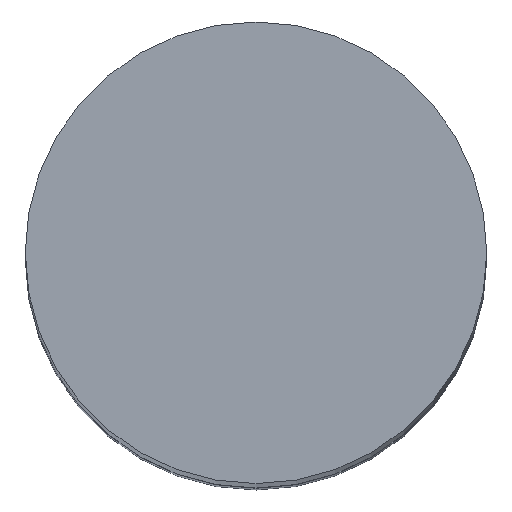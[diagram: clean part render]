
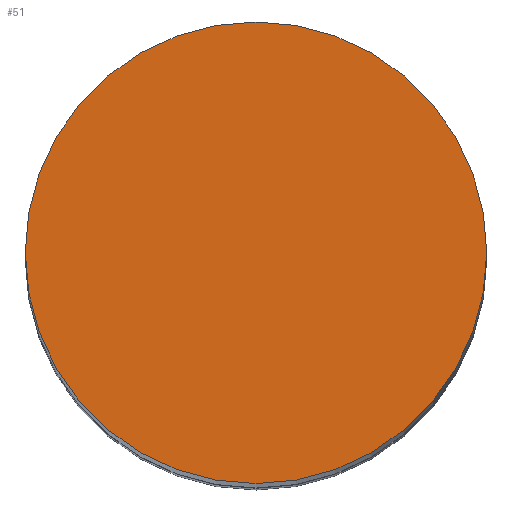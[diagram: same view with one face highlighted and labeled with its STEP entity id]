
A CAD part, top view. The second image highlights one B-rep face of the part: STEP entity #51.
In plain terms, the highlighted planar face has unit normal (0, 0, 1).
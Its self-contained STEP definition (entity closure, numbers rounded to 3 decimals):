
#51=ADVANCED_FACE('',(#98),#99,.T.);
#98=FACE_OUTER_BOUND('',#138,.T.);
#99=PLANE('',#139);
#138=EDGE_LOOP('',(#209,#210));
#139=AXIS2_PLACEMENT_3D('',#211,#212,#213);
#209=ORIENTED_EDGE('',*,*,#248,.T.);
#210=ORIENTED_EDGE('',*,*,#225,.T.);
#211=CARTESIAN_POINT('',(0.0,0.0,0.0));
#212=DIRECTION('',(0.0,0.0,1.0));
#213=DIRECTION('',(1.0,0.0,0.0));
#225=EDGE_CURVE('',#256,#253,#257,.T.);
#248=EDGE_CURVE('',#253,#256,#289,.T.);
#253=VERTEX_POINT('',#294);
#256=VERTEX_POINT('',#298);
#257=CIRCLE('',#299,5.0);
#289=CIRCLE('',#336,5.0);
#294=CARTESIAN_POINT('',(-5.0,0.0,0.0));
#298=CARTESIAN_POINT('',(5.0,0.,0.0));
#299=AXIS2_PLACEMENT_3D('',#341,#342,#343);
#336=AXIS2_PLACEMENT_3D('',#379,#380,#381);
#341=CARTESIAN_POINT('',(0.0,0.0,0.0));
#342=DIRECTION('',(0.0,0.0,1.0));
#343=DIRECTION('',(-1.0,0.0,0.0));
#379=CARTESIAN_POINT('',(0.0,0.0,0.0));
#380=DIRECTION('',(0.0,0.0,1.0));
#381=DIRECTION('',(-1.0,0.0,0.0));
